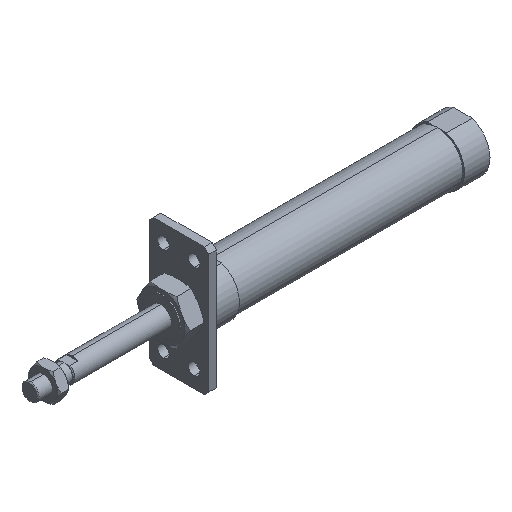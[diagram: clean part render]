
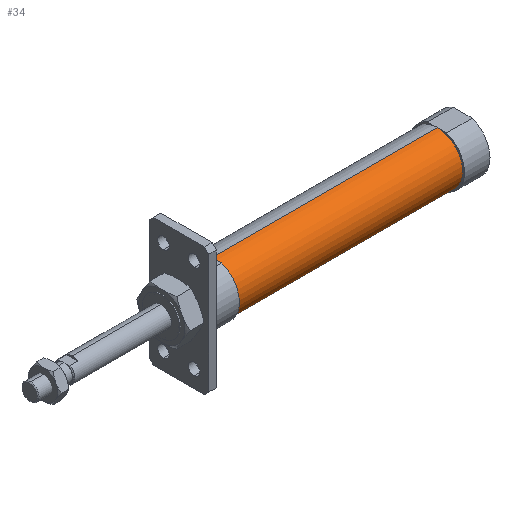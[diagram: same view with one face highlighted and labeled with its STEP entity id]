
A CAD part, isometric view. The second image highlights one B-rep face of the part: STEP entity #34.
In plain terms, the highlighted cylindrical face has radius 15 mm (diameter 30 mm), a partial arc.
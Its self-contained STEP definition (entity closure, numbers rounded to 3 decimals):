
#1 = ORIENTED_EDGE ( 'NONE', *, *, #673, .F. ) ;
#34 = ADVANCED_FACE ( 'NONE', ( #1708 ), #1027, .T. ) ;
#78 = CARTESIAN_POINT ( 'NONE',  ( 107., 0., 15. ) ) ;
#151 = DIRECTION ( 'NONE',  ( -1., 0., 0. ) ) ;
#183 = EDGE_CURVE ( 'NONE', #3647, #2087, #1753, .T. ) ;
#356 = CARTESIAN_POINT ( 'NONE',  ( -6.469, 0., 15. ) ) ;
#384 = DIRECTION ( 'NONE',  ( -1., 0., 0. ) ) ;
#593 = ORIENTED_EDGE ( 'NONE', *, *, #1273, .T. ) ;
#673 = EDGE_CURVE ( 'NONE', #3643, #3225, #1796, .T. ) ;
#705 = DIRECTION ( 'NONE',  ( 0., 0., 1. ) ) ;
#751 = DIRECTION ( 'NONE',  ( 0., 0., 1. ) ) ;
#782 = CARTESIAN_POINT ( 'NONE',  ( -6.469, 0., 0. ) ) ;
#953 = LINE ( 'NONE', #356, #1905 ) ;
#976 = CARTESIAN_POINT ( 'NONE',  ( -6.469, 0., -15. ) ) ;
#1027 = CYLINDRICAL_SURFACE ( 'NONE', #3098, 15. ) ;
#1084 = EDGE_LOOP ( 'NONE', ( #2431, #3633, #593, #1 ) ) ;
#1098 = DIRECTION ( 'NONE',  ( -1., 0., 0. ) ) ;
#1273 = EDGE_CURVE ( 'NONE', #2087, #3225, #953, .T. ) ;
#1571 = AXIS2_PLACEMENT_3D ( 'NONE', #2166, #3108, #751 ) ;
#1708 = FACE_OUTER_BOUND ( 'NONE', #1084, .T. ) ;
#1753 = CIRCLE ( 'NONE', #1571, 15. ) ;
#1796 = CIRCLE ( 'NONE', #3415, 15. ) ;
#1803 = CARTESIAN_POINT ( 'NONE',  ( 239., 0., 15. ) ) ;
#1905 = VECTOR ( 'NONE', #384, 1000. ) ;
#2087 = VERTEX_POINT ( 'NONE', #1803 ) ;
#2166 = CARTESIAN_POINT ( 'NONE',  ( 239., 0., 0. ) ) ;
#2204 = EDGE_CURVE ( 'NONE', #3647, #3643, #2905, .T. ) ;
#2431 = ORIENTED_EDGE ( 'NONE', *, *, #2204, .F. ) ;
#2713 = CARTESIAN_POINT ( 'NONE',  ( 239., 0., -15. ) ) ;
#2724 = CARTESIAN_POINT ( 'NONE',  ( 107., 0., 0. ) ) ;
#2736 = DIRECTION ( 'NONE',  ( -1., 0., 0. ) ) ;
#2824 = DIRECTION ( 'NONE',  ( 0., 0., 1. ) ) ;
#2905 = LINE ( 'NONE', #976, #3043 ) ;
#3043 = VECTOR ( 'NONE', #151, 1000. ) ;
#3098 = AXIS2_PLACEMENT_3D ( 'NONE', #782, #1098, #2824 ) ;
#3108 = DIRECTION ( 'NONE',  ( -1., 0., 0. ) ) ;
#3225 = VERTEX_POINT ( 'NONE', #78 ) ;
#3415 = AXIS2_PLACEMENT_3D ( 'NONE', #2724, #2736, #705 ) ;
#3594 = CARTESIAN_POINT ( 'NONE',  ( 107., 0., -15. ) ) ;
#3633 = ORIENTED_EDGE ( 'NONE', *, *, #183, .T. ) ;
#3643 = VERTEX_POINT ( 'NONE', #3594 ) ;
#3647 = VERTEX_POINT ( 'NONE', #2713 ) ;
